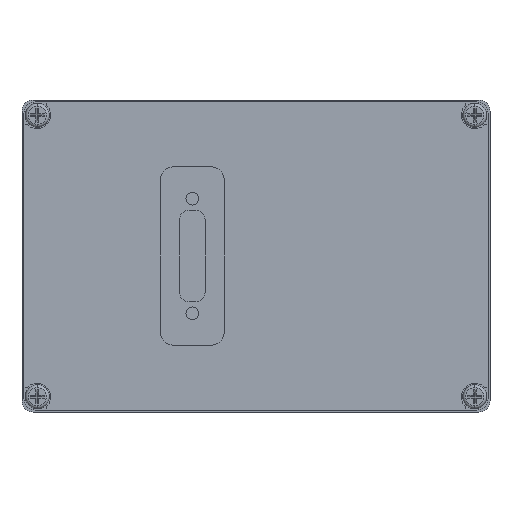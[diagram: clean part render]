
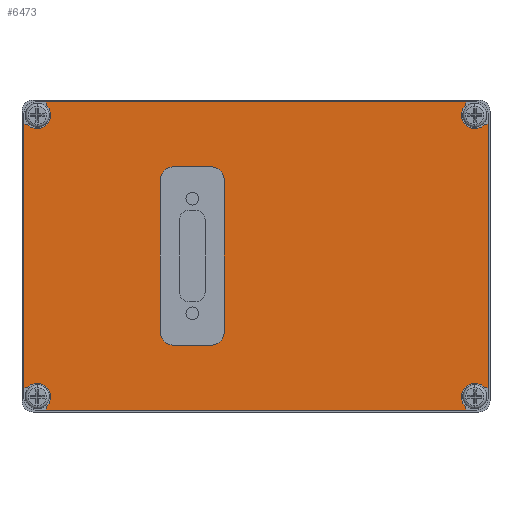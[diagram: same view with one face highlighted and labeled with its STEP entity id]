
A CAD part, front view. The second image highlights one B-rep face of the part: STEP entity #6473.
In plain terms, the highlighted planar face has unit normal (0, -1, 0).
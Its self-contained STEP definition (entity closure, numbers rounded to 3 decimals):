
#5120=DIRECTION('',(0.,0.,1.));
#5121=VECTOR('',#5120,41.4);
#5122=CARTESIAN_POINT('',(0.,0.,3.5));
#5123=LINE('',#5122,#5121);
#5124=DIRECTION('',(1.,0.,0.));
#5125=VECTOR('',#5124,0.535);
#5126=CARTESIAN_POINT('',(0.,0.,44.9));
#5127=LINE('',#5126,#5125);
#5128=CARTESIAN_POINT('',(2.1,0.,46.3));
#5129=DIRECTION('',(0.,-1.,0.));
#5130=DIRECTION('',(-0.745,0.,-0.667));
#5131=AXIS2_PLACEMENT_3D('',#5128,#5129,#5130);
#5133=DIRECTION('',(0.,0.,-1.));
#5134=VECTOR('',#5133,0.535);
#5135=CARTESIAN_POINT('',(3.5,0.,48.4));
#5136=LINE('',#5135,#5134);
#5137=DIRECTION('',(1.,0.,0.));
#5138=VECTOR('',#5137,65.9);
#5139=CARTESIAN_POINT('',(3.5,0.,48.4));
#5140=LINE('',#5139,#5138);
#5141=DIRECTION('',(0.,0.,-1.));
#5142=VECTOR('',#5141,0.535);
#5143=CARTESIAN_POINT('',(69.4,0.,48.4));
#5144=LINE('',#5143,#5142);
#5145=CARTESIAN_POINT('',(70.8,0.,46.3));
#5146=DIRECTION('',(0.,-1.,0.));
#5147=DIRECTION('',(-0.667,0.,0.745));
#5148=AXIS2_PLACEMENT_3D('',#5145,#5146,#5147);
#5150=DIRECTION('',(-1.,0.,0.));
#5151=VECTOR('',#5150,0.535);
#5152=CARTESIAN_POINT('',(72.9,0.,44.9));
#5153=LINE('',#5152,#5151);
#5154=DIRECTION('',(0.,0.,-1.));
#5155=VECTOR('',#5154,41.4);
#5156=CARTESIAN_POINT('',(72.9,0.,44.9));
#5157=LINE('',#5156,#5155);
#5158=DIRECTION('',(-1.,0.,0.));
#5159=VECTOR('',#5158,0.535);
#5160=CARTESIAN_POINT('',(72.9,0.,3.5));
#5161=LINE('',#5160,#5159);
#5162=CARTESIAN_POINT('',(70.8,0.,2.1));
#5163=DIRECTION('',(0.,-1.,0.));
#5164=DIRECTION('',(0.745,0.,0.667));
#5165=AXIS2_PLACEMENT_3D('',#5162,#5163,#5164);
#5167=DIRECTION('',(0.,0.,1.));
#5168=VECTOR('',#5167,0.535);
#5169=CARTESIAN_POINT('',(69.4,0.,0.));
#5170=LINE('',#5169,#5168);
#5171=DIRECTION('',(-1.,0.,0.));
#5172=VECTOR('',#5171,65.9);
#5173=CARTESIAN_POINT('',(69.4,0.,0.));
#5174=LINE('',#5173,#5172);
#5175=DIRECTION('',(0.,0.,1.));
#5176=VECTOR('',#5175,0.535);
#5177=CARTESIAN_POINT('',(3.5,0.,0.));
#5178=LINE('',#5177,#5176);
#5179=CARTESIAN_POINT('',(2.1,0.,2.1));
#5180=DIRECTION('',(0.,-1.,0.));
#5181=DIRECTION('',(0.667,0.,-0.745));
#5182=AXIS2_PLACEMENT_3D('',#5179,#5180,#5181);
#5184=DIRECTION('',(1.,0.,0.));
#5185=VECTOR('',#5184,0.535);
#5186=CARTESIAN_POINT('',(0.,0.,3.5));
#5187=LINE('',#5186,#5185);
#5188=DIRECTION('',(0.,0.,1.));
#5189=VECTOR('',#5188,24.);
#5190=CARTESIAN_POINT('',(31.45,0.,12.2));
#5191=LINE('',#5190,#5189);
#5192=DIRECTION('',(-1.,0.,0.));
#5193=VECTOR('',#5192,6.);
#5194=CARTESIAN_POINT('',(29.45,0.,38.2));
#5195=LINE('',#5194,#5193);
#5196=DIRECTION('',(0.,0.,-1.));
#5197=VECTOR('',#5196,24.);
#5198=CARTESIAN_POINT('',(21.45,0.,36.2));
#5199=LINE('',#5198,#5197);
#5200=DIRECTION('',(1.,0.,0.));
#5201=VECTOR('',#5200,6.);
#5202=CARTESIAN_POINT('',(23.45,0.,10.2));
#5203=LINE('',#5202,#5201);
#5665=CARTESIAN_POINT('',(23.45,0.,36.2));
#5666=DIRECTION('',(0.,1.,0.));
#5667=DIRECTION('',(-1.,0.,0.));
#5668=AXIS2_PLACEMENT_3D('',#5665,#5666,#5667);
#5678=CARTESIAN_POINT('',(23.45,0.,12.2));
#5679=DIRECTION('',(0.,1.,0.));
#5680=DIRECTION('',(0.,0.,-1.));
#5681=AXIS2_PLACEMENT_3D('',#5678,#5679,#5680);
#5691=CARTESIAN_POINT('',(29.45,0.,12.2));
#5692=DIRECTION('',(0.,1.,0.));
#5693=DIRECTION('',(1.,0.,0.));
#5694=AXIS2_PLACEMENT_3D('',#5691,#5692,#5693);
#5704=CARTESIAN_POINT('',(29.45,0.,36.2));
#5705=DIRECTION('',(0.,1.,0.));
#5706=DIRECTION('',(0.,0.,1.));
#5707=AXIS2_PLACEMENT_3D('',#5704,#5705,#5706);
#6112=CARTESIAN_POINT('',(0.,0.,3.5));
#6113=CARTESIAN_POINT('',(0.,0.,44.9));
#6114=VERTEX_POINT('',#6112);
#6115=VERTEX_POINT('',#6113);
#6116=CARTESIAN_POINT('',(3.5,0.,48.4));
#6117=CARTESIAN_POINT('',(69.4,0.,48.4));
#6118=VERTEX_POINT('',#6116);
#6119=VERTEX_POINT('',#6117);
#6120=CARTESIAN_POINT('',(72.9,0.,44.9));
#6121=CARTESIAN_POINT('',(72.9,0.,3.5));
#6122=VERTEX_POINT('',#6120);
#6123=VERTEX_POINT('',#6121);
#6124=CARTESIAN_POINT('',(69.4,0.,0.));
#6125=CARTESIAN_POINT('',(3.5,0.,0.));
#6126=VERTEX_POINT('',#6124);
#6127=VERTEX_POINT('',#6125);
#6164=CARTESIAN_POINT('',(3.5,0.,0.535));
#6165=CARTESIAN_POINT('',(0.535,0.,3.5));
#6166=VERTEX_POINT('',#6164);
#6167=VERTEX_POINT('',#6165);
#6180=CARTESIAN_POINT('',(69.4,0.,47.865));
#6181=VERTEX_POINT('',#6180);
#6182=CARTESIAN_POINT('',(72.365,0.,44.9));
#6183=VERTEX_POINT('',#6182);
#6184=CARTESIAN_POINT('',(69.4,0.,0.535));
#6185=VERTEX_POINT('',#6184);
#6186=CARTESIAN_POINT('',(72.365,0.,3.5));
#6187=VERTEX_POINT('',#6186);
#6216=CARTESIAN_POINT('',(21.45,0.,36.2));
#6217=VERTEX_POINT('',#6216);
#6218=CARTESIAN_POINT('',(23.45,0.,38.2));
#6219=VERTEX_POINT('',#6218);
#6224=CARTESIAN_POINT('',(29.45,0.,38.2));
#6225=VERTEX_POINT('',#6224);
#6226=CARTESIAN_POINT('',(31.45,0.,36.2));
#6227=VERTEX_POINT('',#6226);
#6232=CARTESIAN_POINT('',(23.45,0.,10.2));
#6233=VERTEX_POINT('',#6232);
#6234=CARTESIAN_POINT('',(21.45,0.,12.2));
#6235=VERTEX_POINT('',#6234);
#6240=CARTESIAN_POINT('',(31.45,0.,12.2));
#6241=VERTEX_POINT('',#6240);
#6242=CARTESIAN_POINT('',(29.45,0.,10.2));
#6243=VERTEX_POINT('',#6242);
#6412=CARTESIAN_POINT('',(0.535,0.,44.9));
#6413=CARTESIAN_POINT('',(3.5,0.,47.865));
#6414=VERTEX_POINT('',#6412);
#6415=VERTEX_POINT('',#6413);
#6416=CARTESIAN_POINT('',(0.,0.,0.));
#6417=DIRECTION('',(0.,1.,0.));
#6418=DIRECTION('',(1.,0.,0.));
#6419=AXIS2_PLACEMENT_3D('',#6416,#6417,#6418);
#6420=PLANE('',#6419);
#6422=ORIENTED_EDGE('',*,*,#6421,.T.);
#6424=ORIENTED_EDGE('',*,*,#6423,.T.);
#6426=ORIENTED_EDGE('',*,*,#6425,.T.);
#6428=ORIENTED_EDGE('',*,*,#6427,.F.);
#6430=ORIENTED_EDGE('',*,*,#6429,.T.);
#6432=ORIENTED_EDGE('',*,*,#6431,.T.);
#6434=ORIENTED_EDGE('',*,*,#6433,.T.);
#6436=ORIENTED_EDGE('',*,*,#6435,.F.);
#6438=ORIENTED_EDGE('',*,*,#6437,.T.);
#6440=ORIENTED_EDGE('',*,*,#6439,.T.);
#6442=ORIENTED_EDGE('',*,*,#6441,.T.);
#6444=ORIENTED_EDGE('',*,*,#6443,.F.);
#6446=ORIENTED_EDGE('',*,*,#6445,.T.);
#6448=ORIENTED_EDGE('',*,*,#6447,.T.);
#6450=ORIENTED_EDGE('',*,*,#6449,.T.);
#6452=ORIENTED_EDGE('',*,*,#6451,.F.);
#6453=EDGE_LOOP('',(#6422,#6424,#6426,#6428,#6430,#6432,#6434,#6436,#6438,#6440,
#6442,#6444,#6446,#6448,#6450,#6452));
#6454=FACE_OUTER_BOUND('',#6453,.F.);
#6456=ORIENTED_EDGE('',*,*,#6455,.T.);
#6458=ORIENTED_EDGE('',*,*,#6457,.F.);
#6460=ORIENTED_EDGE('',*,*,#6459,.T.);
#6462=ORIENTED_EDGE('',*,*,#6461,.F.);
#6464=ORIENTED_EDGE('',*,*,#6463,.T.);
#6466=ORIENTED_EDGE('',*,*,#6465,.F.);
#6468=ORIENTED_EDGE('',*,*,#6467,.T.);
#6470=ORIENTED_EDGE('',*,*,#6469,.F.);
#6471=EDGE_LOOP('',(#6456,#6458,#6460,#6462,#6464,#6466,#6468,#6470));
#6472=FACE_BOUND('',#6471,.F.);
#5132=CIRCLE('',#5131,2.1);
#5149=CIRCLE('',#5148,2.1);
#5166=CIRCLE('',#5165,2.1);
#5183=CIRCLE('',#5182,2.1);
#5669=CIRCLE('',#5668,2.);
#5682=CIRCLE('',#5681,2.);
#5695=CIRCLE('',#5694,2.);
#5708=CIRCLE('',#5707,2.);
#6421=EDGE_CURVE('',#6114,#6115,#5123,.T.);
#6423=EDGE_CURVE('',#6115,#6414,#5127,.T.);
#6425=EDGE_CURVE('',#6414,#6415,#5132,.T.);
#6427=EDGE_CURVE('',#6118,#6415,#5136,.T.);
#6429=EDGE_CURVE('',#6118,#6119,#5140,.T.);
#6431=EDGE_CURVE('',#6119,#6181,#5144,.T.);
#6433=EDGE_CURVE('',#6181,#6183,#5149,.T.);
#6435=EDGE_CURVE('',#6122,#6183,#5153,.T.);
#6437=EDGE_CURVE('',#6122,#6123,#5157,.T.);
#6439=EDGE_CURVE('',#6123,#6187,#5161,.T.);
#6441=EDGE_CURVE('',#6187,#6185,#5166,.T.);
#6443=EDGE_CURVE('',#6126,#6185,#5170,.T.);
#6445=EDGE_CURVE('',#6126,#6127,#5174,.T.);
#6447=EDGE_CURVE('',#6127,#6166,#5178,.T.);
#6449=EDGE_CURVE('',#6166,#6167,#5183,.T.);
#6451=EDGE_CURVE('',#6114,#6167,#5187,.T.);
#6455=EDGE_CURVE('',#6241,#6227,#5191,.T.);
#6457=EDGE_CURVE('',#6225,#6227,#5708,.T.);
#6459=EDGE_CURVE('',#6225,#6219,#5195,.T.);
#6461=EDGE_CURVE('',#6217,#6219,#5669,.T.);
#6463=EDGE_CURVE('',#6217,#6235,#5199,.T.);
#6465=EDGE_CURVE('',#6233,#6235,#5682,.T.);
#6467=EDGE_CURVE('',#6233,#6243,#5203,.T.);
#6469=EDGE_CURVE('',#6241,#6243,#5695,.T.);
#6473=ADVANCED_FACE('',(#6454,#6472),#6420,.F.);
